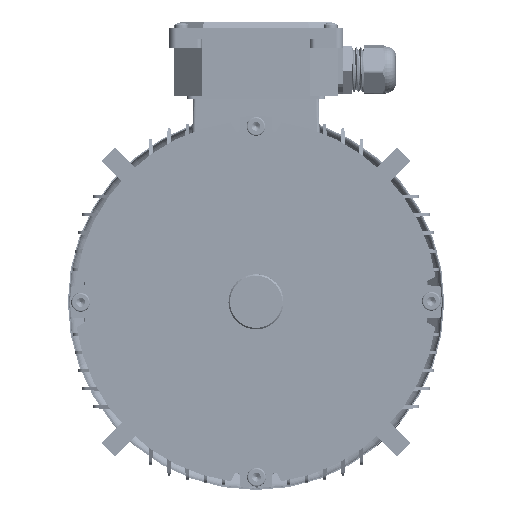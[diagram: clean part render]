
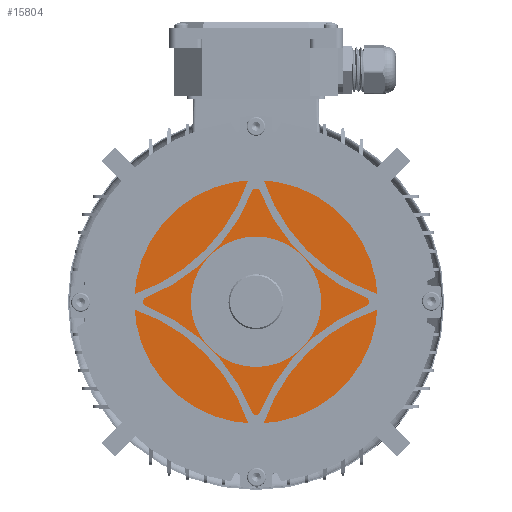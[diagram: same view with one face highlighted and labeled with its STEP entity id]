
A CAD part, front view. The second image highlights one B-rep face of the part: STEP entity #15804.
In plain terms, the highlighted planar face has unit normal (0, -1, 0).
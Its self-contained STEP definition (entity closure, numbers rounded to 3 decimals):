
#1993 = DIRECTION ( 'NONE',  ( 0., -1., 0. ) ) ;
#2122 = EDGE_LOOP ( 'NONE', ( #57417, #53638 ) ) ;
#3151 = VERTEX_POINT ( 'NONE', #102719 ) ;
#3490 = CIRCLE ( 'NONE', #78255, 84. ) ;
#6222 = DIRECTION ( 'NONE',  ( 0., -1., 0. ) ) ;
#11024 = CARTESIAN_POINT ( 'NONE',  ( 0., 11.146, 45. ) ) ;
#15474 = CARTESIAN_POINT ( 'NONE',  ( 84., 11.146, 0. ) ) ;
#15804 = ADVANCED_FACE ( 'NONE', ( #76292, #22457 ), #106845, .T. ) ;
#16268 = EDGE_CURVE ( 'NONE', #3151, #32579, #112453, .T. ) ;
#22457 = FACE_BOUND ( 'NONE', #28842, .T. ) ;
#25419 = CARTESIAN_POINT ( 'NONE',  ( 0., 11.146, 0. ) ) ;
#28842 = EDGE_LOOP ( 'NONE', ( #34411, #125388 ) ) ;
#32579 = VERTEX_POINT ( 'NONE', #11024 ) ;
#34411 = ORIENTED_EDGE ( 'NONE', *, *, #16268, .F. ) ;
#35225 = DIRECTION ( 'NONE',  ( 0., -1., 0. ) ) ;
#35663 = DIRECTION ( 'NONE',  ( 0., 0., -1. ) ) ;
#39978 = CARTESIAN_POINT ( 'NONE',  ( 0., 11.146, 84. ) ) ;
#44261 = CIRCLE ( 'NONE', #113979, 84. ) ;
#53638 = ORIENTED_EDGE ( 'NONE', *, *, #103371, .T. ) ;
#57154 = AXIS2_PLACEMENT_3D ( 'NONE', #95688, #35225, #105820 ) ;
#57417 = ORIENTED_EDGE ( 'NONE', *, *, #82619, .T. ) ;
#60191 = DIRECTION ( 'NONE',  ( 0., -1., 0. ) ) ;
#62575 = CARTESIAN_POINT ( 'NONE',  ( 0., 11.146, 0. ) ) ;
#72696 = DIRECTION ( 'NONE',  ( 0., 0., -1. ) ) ;
#76292 = FACE_OUTER_BOUND ( 'NONE', #2122, .T. ) ;
#76813 = CIRCLE ( 'NONE', #121725, 45. ) ;
#76893 = DIRECTION ( 'NONE',  ( 0., 0., -1. ) ) ;
#78255 = AXIS2_PLACEMENT_3D ( 'NONE', #120529, #60191, #130627 ) ;
#82619 = EDGE_CURVE ( 'NONE', #109915, #96187, #3490, .T. ) ;
#95688 = CARTESIAN_POINT ( 'NONE',  ( 0., 11.146, 0. ) ) ;
#95870 = EDGE_CURVE ( 'NONE', #32579, #3151, #76813, .T. ) ;
#96120 = DIRECTION ( 'NONE',  ( 0., -1., 0. ) ) ;
#96187 = VERTEX_POINT ( 'NONE', #39978 ) ;
#102719 = CARTESIAN_POINT ( 'NONE',  ( 0., 11.146, -45. ) ) ;
#103371 = EDGE_CURVE ( 'NONE', #96187, #109915, #44261, .T. ) ;
#105820 = DIRECTION ( 'NONE',  ( 0., 0., -1. ) ) ;
#106845 = PLANE ( 'NONE',  #123012 ) ;
#109915 = VERTEX_POINT ( 'NONE', #114727 ) ;
#112453 = CIRCLE ( 'NONE', #57154, 45. ) ;
#113979 = AXIS2_PLACEMENT_3D ( 'NONE', #62575, #1993, #72696 ) ;
#114727 = CARTESIAN_POINT ( 'NONE',  ( 0., 11.146, -84. ) ) ;
#120529 = CARTESIAN_POINT ( 'NONE',  ( 0., 11.146, 0. ) ) ;
#121725 = AXIS2_PLACEMENT_3D ( 'NONE', #25419, #96120, #35663 ) ;
#123012 = AXIS2_PLACEMENT_3D ( 'NONE', #15474, #6222, #76893 ) ;
#125388 = ORIENTED_EDGE ( 'NONE', *, *, #95870, .F. ) ;
#130627 = DIRECTION ( 'NONE',  ( 0., 0., -1. ) ) ;
